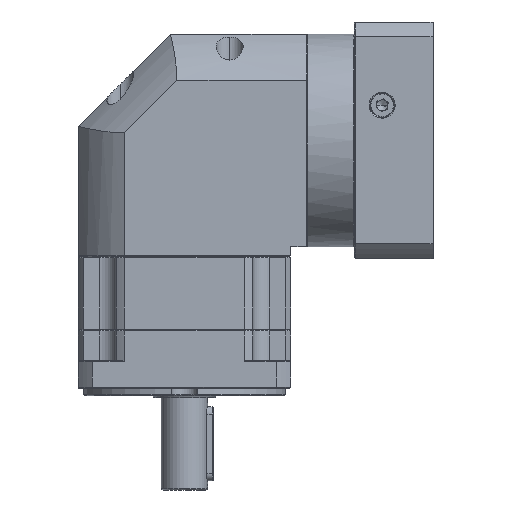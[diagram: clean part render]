
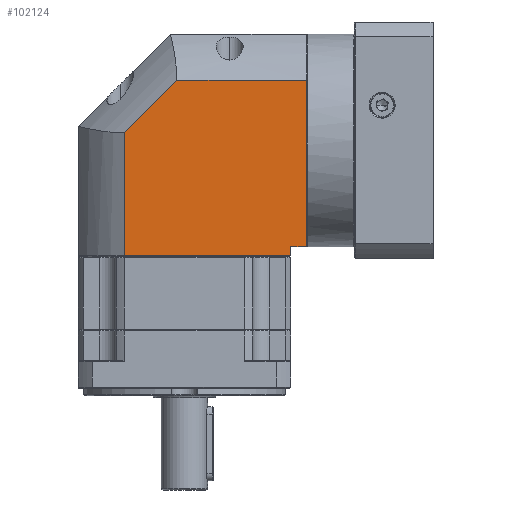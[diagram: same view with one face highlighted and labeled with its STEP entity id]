
A CAD part, front view. The second image highlights one B-rep face of the part: STEP entity #102124.
In plain terms, the highlighted planar face has unit normal (0, -1, 0).
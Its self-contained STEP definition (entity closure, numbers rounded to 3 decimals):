
#410 = CARTESIAN_POINT ( 'NONE',  ( 46.804, 23.455, 64.697 ) ) ;
#814 = LINE ( 'NONE', #34636, #80638 ) ;
#3858 = DIRECTION ( 'NONE',  ( 1., 0., 0. ) ) ;
#6207 = CARTESIAN_POINT ( 'NONE',  ( 116.766, 23.455, -25.203 ) ) ;
#12839 = ORIENTED_EDGE ( 'NONE', *, *, #80783, .F. ) ;
#14116 = CARTESIAN_POINT ( 'NONE',  ( -6.634, 23.455, 64.697 ) ) ;
#14837 = VERTEX_POINT ( 'NONE', #410 ) ;
#17712 = EDGE_LOOP ( 'NONE', ( #45322, #54107, #12839, #66033, #133048, #43632, #86567 ) ) ;
#24192 = CARTESIAN_POINT ( 'NONE',  ( 108.366, 23.455, -36.703 ) ) ;
#28642 = DIRECTION ( 'NONE',  ( 0., 0., 1. ) ) ;
#29287 = VECTOR ( 'NONE', #45842, 1000. ) ;
#31882 = CARTESIAN_POINT ( 'NONE',  ( -6.634, 23.455, -36.703 ) ) ;
#32926 = VERTEX_POINT ( 'NONE', #6207 ) ;
#33284 = EDGE_CURVE ( 'NONE', #106781, #87989, #50062, .T. ) ;
#34519 = FACE_OUTER_BOUND ( 'NONE', #17712, .T. ) ;
#34636 = CARTESIAN_POINT ( 'NONE',  ( 18.466, 23.455, 36.359 ) ) ;
#34749 = CARTESIAN_POINT ( 'NONE',  ( 108.366, 23.455, -25.203 ) ) ;
#40219 = CARTESIAN_POINT ( 'NONE',  ( 18.466, 23.455, -36.703 ) ) ;
#42642 = LINE ( 'NONE', #99675, #29287 ) ;
#43632 = ORIENTED_EDGE ( 'NONE', *, *, #75312, .F. ) ;
#45322 = ORIENTED_EDGE ( 'NONE', *, *, #33284, .F. ) ;
#45842 = DIRECTION ( 'NONE',  ( -1., 0., 0. ) ) ;
#50062 = LINE ( 'NONE', #24192, #133239 ) ;
#51279 = CARTESIAN_POINT ( 'NONE',  ( 116.766, 23.455, -36.703 ) ) ;
#52902 = EDGE_CURVE ( 'NONE', #32926, #106781, #42642, .T. ) ;
#53244 = CARTESIAN_POINT ( 'NONE',  ( -6.634, 23.455, -30.203 ) ) ;
#54107 = ORIENTED_EDGE ( 'NONE', *, *, #52902, .F. ) ;
#55403 = DIRECTION ( 'NONE',  ( 0.707, 0., 0.707 ) ) ;
#55714 = VECTOR ( 'NONE', #124218, 1000. ) ;
#55842 = VECTOR ( 'NONE', #84824, 1000. ) ;
#56273 = VERTEX_POINT ( 'NONE', #103406 ) ;
#56556 = EDGE_CURVE ( 'NONE', #56273, #14837, #814, .T. ) ;
#57388 = CARTESIAN_POINT ( 'NONE',  ( 116.766, 23.455, 64.697 ) ) ;
#57948 = EDGE_CURVE ( 'NONE', #14837, #116319, #127719, .T. ) ;
#63015 = LINE ( 'NONE', #40219, #103013 ) ;
#64178 = AXIS2_PLACEMENT_3D ( 'NONE', #31882, #118190, #106138 ) ;
#65807 = LINE ( 'NONE', #53244, #55842 ) ;
#66033 = ORIENTED_EDGE ( 'NONE', *, *, #57948, .F. ) ;
#70562 = VERTEX_POINT ( 'NONE', #74165 ) ;
#74165 = CARTESIAN_POINT ( 'NONE',  ( 18.466, 23.455, -30.203 ) ) ;
#75312 = EDGE_CURVE ( 'NONE', #70562, #56273, #63015, .T. ) ;
#79781 = CARTESIAN_POINT ( 'NONE',  ( 108.366, 23.455, -30.203 ) ) ;
#80638 = VECTOR ( 'NONE', #55403, 1000. ) ;
#80699 = LINE ( 'NONE', #51279, #55714 ) ;
#80783 = EDGE_CURVE ( 'NONE', #116319, #32926, #80699, .T. ) ;
#84824 = DIRECTION ( 'NONE',  ( -1., 0., 0. ) ) ;
#86365 = DIRECTION ( 'NONE',  ( 0., 0., -1. ) ) ;
#86567 = ORIENTED_EDGE ( 'NONE', *, *, #136413, .F. ) ;
#87989 = VERTEX_POINT ( 'NONE', #79781 ) ;
#99675 = CARTESIAN_POINT ( 'NONE',  ( -6.634, 23.455, -25.203 ) ) ;
#102124 = ADVANCED_FACE ( 'NONE', ( #34519 ), #105693, .F. ) ;
#103013 = VECTOR ( 'NONE', #28642, 1000. ) ;
#103406 = CARTESIAN_POINT ( 'NONE',  ( 18.466, 23.455, 36.359 ) ) ;
#105693 = PLANE ( 'NONE',  #64178 ) ;
#106120 = VECTOR ( 'NONE', #3858, 1000. ) ;
#106138 = DIRECTION ( 'NONE',  ( 1., 0., 0. ) ) ;
#106781 = VERTEX_POINT ( 'NONE', #34749 ) ;
#116319 = VERTEX_POINT ( 'NONE', #57388 ) ;
#118190 = DIRECTION ( 'NONE',  ( 0., 1., 0. ) ) ;
#124218 = DIRECTION ( 'NONE',  ( 0., 0., -1. ) ) ;
#127719 = LINE ( 'NONE', #14116, #106120 ) ;
#133048 = ORIENTED_EDGE ( 'NONE', *, *, #56556, .F. ) ;
#133239 = VECTOR ( 'NONE', #86365, 1000. ) ;
#136413 = EDGE_CURVE ( 'NONE', #87989, #70562, #65807, .T. ) ;
